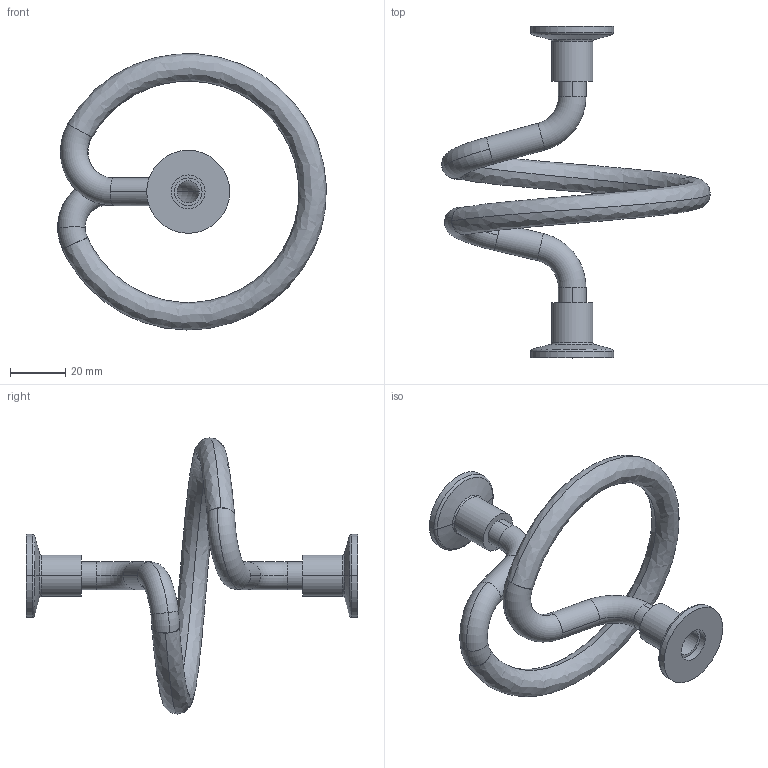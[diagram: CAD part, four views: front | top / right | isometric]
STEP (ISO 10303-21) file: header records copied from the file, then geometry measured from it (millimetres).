
FILE_DESCRIPTION (( 'STEP AP214' ), '1' );
FILE_NAME ('W3RWG16.STEP', '2019-12-09T15:15:45', ( '' ), ( '' ), 'SwSTEP 2.0', 'SolidWorks 2018', '' );
FILE_SCHEMA (( 'AUTOMOTIVE_DESIGN' ));
Length unit declared in the file: millimetre
Products named in the file (3): Rohr_ISO1127-D3_T3-w__10_0x1; W3RWG16; 010KF020A
Assembly tree (3 placements, depth 2):
  W3RWG16
    Rohr_ISO1127-D3_T3-w__10_0x1
    010KF020A  x2
Bounding box: 97.18 x 120 x 99.85 mm (x, y, z)
Volume: 18989.5 mm3; surface area: 28131.6 mm2
Topology: 3 solids, 3 shells, 84 faces, 192 edges, 116 vertices
Faces by surface type: cylinder 40, torus 28, plane 8, bspline 4, cone 4
Entity records: 2730 total; most frequent: CARTESIAN_POINT 991, DIRECTION 412, ORIENTED_EDGE 316, AXIS2_PLACEMENT_3D 189, EDGE_CURVE 158, CIRCLE 120, VERTEX_POINT 96, EDGE_LOOP 72
